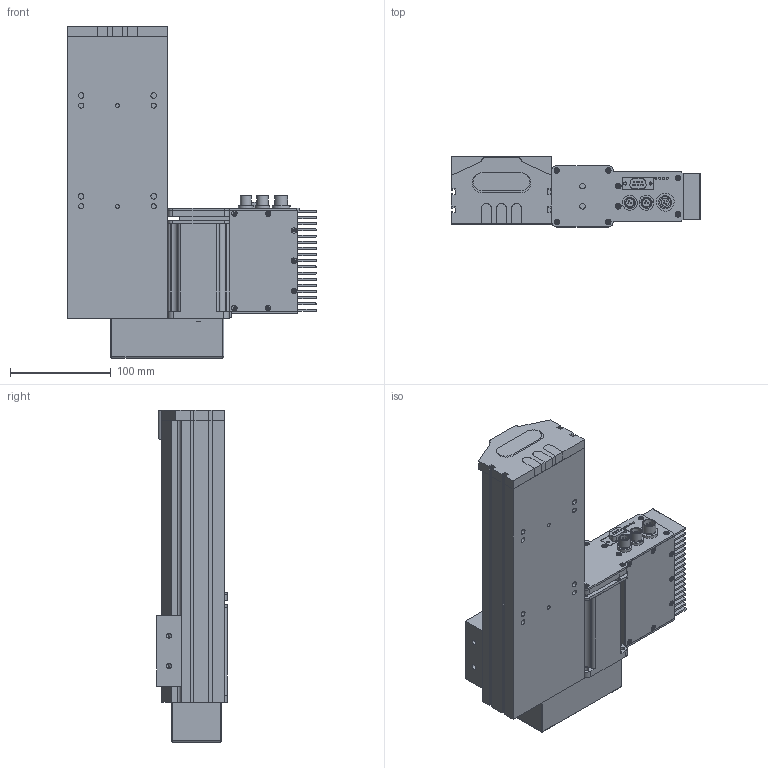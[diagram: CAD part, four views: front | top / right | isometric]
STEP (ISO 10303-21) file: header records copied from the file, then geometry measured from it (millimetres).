
FILE_DESCRIPTION (( 'STEP AP203' ), '1' );
FILE_NAME ('S10 TSN BR S100.STEP', '2012-08-31T13:08:03', ( 'Conseil Régional Haute-Normandie' ), ( 'Conseil Régional Haute-Normandie' ), 'SwSTEP 2.0', 'SolidWorks 2010', '' );
FILE_SCHEMA (( 'CONFIG_CONTROL_DESIGN' ));
Length unit declared in the file: millimetre
Products named in the file (25): S10 TSN BR S100; BU45 Carte d''axe A11_5; Colonnette_3; Moteur 60BLDC90A_3; Sub D 9cts 90_X2_00B_X0__3; Radiateur profil_X2_00E9_X0_ 100x25_3; axe287; palette tbn; renvoi LH_Default; Pièce2_Default; Assem1_7; T_X2_00F4_X0_le contre le moteur_5; BU41 Carte Alimentation P05_3; Couvercle_3; T_X2_00F4_X0_le fond_3; Connecteur rond D10 3cts_5; Connecteur rond D12 4cts_5; Colonnette ronde_3; T_X2_00F4_X0_le Arri_X2_00E8_X0_re_5; T_X2_00F4_X0_le lat_X2_00E9_X0_rale_5; Vis TF 3 torkx_1_1; Vis TF 3 torkx; piece_plastique remplie_Default; embout_modifié; remplir_Default
Assembly tree (55 placements, depth 3):
  S10 TSN BR S100
    Vis TF 3 torkx  x7
    palette tbn
    Assem1_7
      T_X2_00F4_X0_le lat_X2_00E9_X0_rale_5  x2
      Vis TF 3 torkx_1_1  x21
      T_X2_00F4_X0_le contre le moteur_5
      BU41 Carte Alimentation P05_3
      Couvercle_3
      Sub D 9cts 90_X2_00B_X0__3
      Colonnette_3  x2
      T_X2_00F4_X0_le fond_3
      Connecteur rond D10 3cts_5  x2
      Connecteur rond D12 4cts_5
      Radiateur profil_X2_00E9_X0_ 100x25_3
      BU45 Carte d''axe A11_5
      Colonnette ronde_3
      Moteur 60BLDC90A_3
      T_X2_00F4_X0_le Arri_X2_00E8_X0_re_5
    axe287
    piece_plastique remplie_Default
      remplir_Default  x3
      Pièce2_Default
      embout_modifié
    renvoi LH_Default
Bounding box: 248 x 69.67 x 329.5 mm (x, y, z)
Volume: 2203889.2 mm3; surface area: 421333.4 mm2
Topology: 53 solids, 53 shells, 1930 faces, 4920 edges, 3206 vertices
Faces by surface type: plane 918, cylinder 849, cone 156, bspline 4, torus 3
Entity records: 37591 total; most frequent: CARTESIAN_POINT 6356, DIRECTION 6079, ORIENTED_EDGE 5548, EDGE_CURVE 2774, AXIS2_PLACEMENT_3D 2218, VERTEX_POINT 1818, LINE 1643, VECTOR 1643
